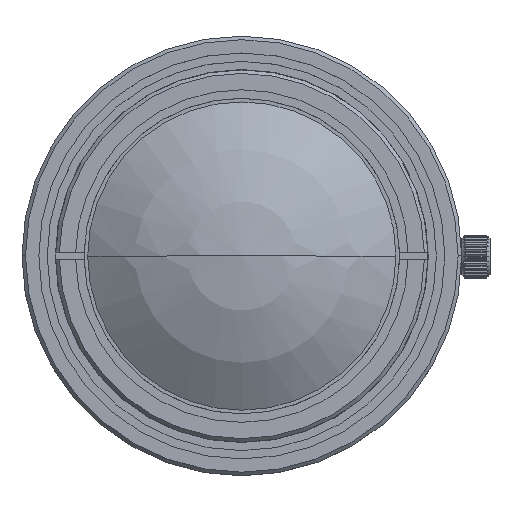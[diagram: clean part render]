
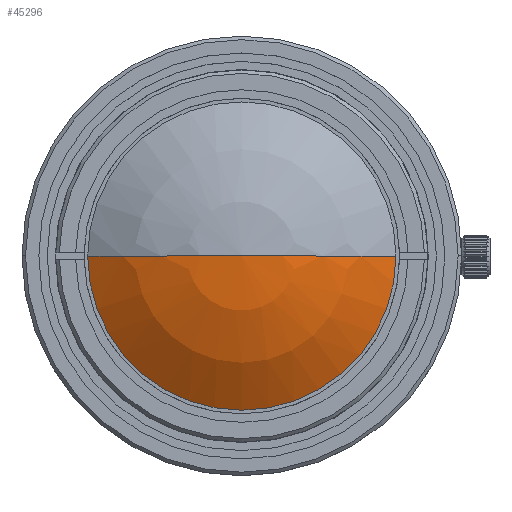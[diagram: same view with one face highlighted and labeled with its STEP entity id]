
A CAD part, top view. The second image highlights one B-rep face of the part: STEP entity #45296.
In plain terms, the highlighted spherical face has radius 36.47 mm.
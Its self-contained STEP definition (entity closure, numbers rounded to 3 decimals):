
#9168=CARTESIAN_POINT('',(0.,0.,-7.188));
#9169=DIRECTION('',(0.,0.,1.));
#9170=DIRECTION('',(-1.,0.,0.));
#9171=AXIS2_PLACEMENT_3D('',#9168,#9169,#9170);
#9207=CARTESIAN_POINT('',(0.,0.,-36.47));
#9208=DIRECTION('',(0.,-1.,0.));
#9209=DIRECTION('',(0.596,0.,0.803));
#9210=AXIS2_PLACEMENT_3D('',#9207,#9208,#9209);
#9212=CARTESIAN_POINT('',(0.,0.,-36.47));
#9213=DIRECTION('',(0.,1.,0.));
#9214=DIRECTION('',(-0.596,0.,0.803));
#9215=AXIS2_PLACEMENT_3D('',#9212,#9213,#9214);
#32644=CARTESIAN_POINT('',(21.739,0.,-7.188));
#32645=CARTESIAN_POINT('',(-21.739,0.,-7.188));
#32646=VERTEX_POINT('',#32644);
#32647=VERTEX_POINT('',#32645);
#32648=CARTESIAN_POINT('',(0.,0.,0.));
#32649=VERTEX_POINT('',#32648);
#45286=CARTESIAN_POINT('',(0.,0.,-36.47));
#45287=DIRECTION('',(0.,0.,1.));
#45288=DIRECTION('',(1.,0.,0.));
#45289=AXIS2_PLACEMENT_3D('',#45286,#45287,#45288);
#45290=SPHERICAL_SURFACE('',#45289,36.47);
#45291=ORIENTED_EDGE('',*,*,#45226,.F.);
#45292=ORIENTED_EDGE('',*,*,#45281,.T.);
#45293=ORIENTED_EDGE('',*,*,#45279,.F.);
#45294=EDGE_LOOP('',(#45291,#45292,#45293));
#45295=FACE_OUTER_BOUND('',#45294,.F.);
#9172=CIRCLE('',#9171,21.739);
#9211=CIRCLE('',#9210,36.47);
#9216=CIRCLE('',#9215,36.47);
#45226=EDGE_CURVE('',#32647,#32646,#9172,.T.);
#45279=EDGE_CURVE('',#32646,#32649,#9211,.T.);
#45281=EDGE_CURVE('',#32647,#32649,#9216,.T.);
#45296=ADVANCED_FACE('',(#45295),#45290,.T.);
